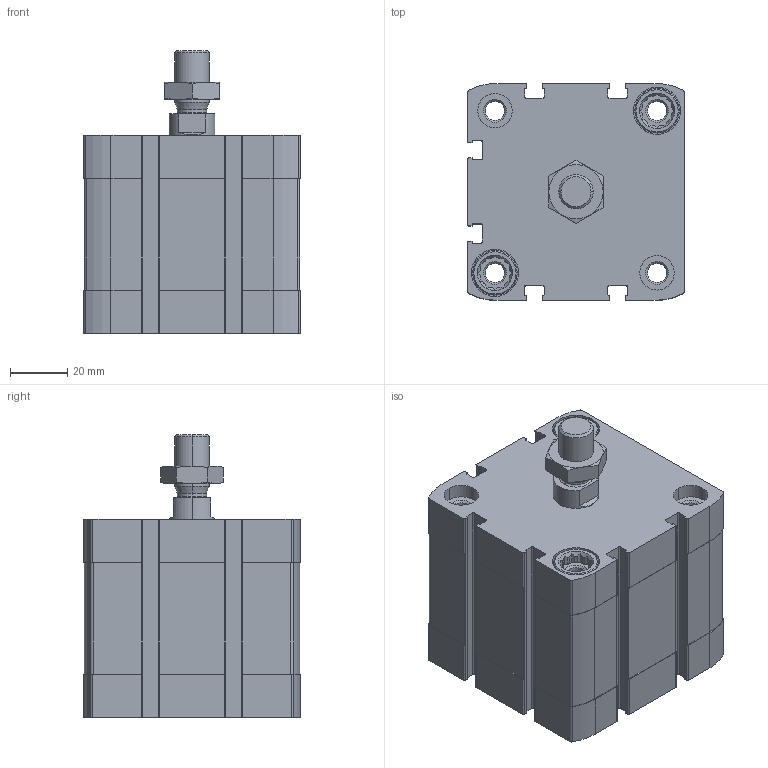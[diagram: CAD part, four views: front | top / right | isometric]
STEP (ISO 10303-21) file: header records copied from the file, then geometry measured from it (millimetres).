
FILE_DESCRIPTION (( 'STEP AP203' ), '1' );
FILE_NAME ('CCN63-20.STEP', '2017-04-05T18:03:16', ( '' ), ( '' ), 'SwSTEP 2.0', 'SolidWorks 2016', '' );
FILE_SCHEMA (( 'CONFIG_CONTROL_DESIGN' ));
Length unit declared in the file: millimetre
Products named in the file (4): _DIN-439-B - M12x1.25(F); CCN63-20; _CCN---(Z); CCN_(KS)
Assembly tree (3 placements, depth 2):
  CCN63-20
    _CCN---(Z)
    CCN_(KS)
    _DIN-439-B - M12x1.25(F)
Bounding box: 75.5 x 75.5 x 98.5 mm (x, y, z)
Volume: 306464.6 mm3; surface area: 73411 mm2
Topology: 3 solids, 3 shells, 491 faces, 1318 edges, 864 vertices
Faces by surface type: plane 227, cylinder 212, cone 48, bspline 4
Entity records: 16092 total; most frequent: CARTESIAN_POINT 3139, DIRECTION 2676, ORIENTED_EDGE 2636, EDGE_CURVE 1318, AXIS2_PLACEMENT_3D 979, VERTEX_POINT 864, LINE 718, VECTOR 718
